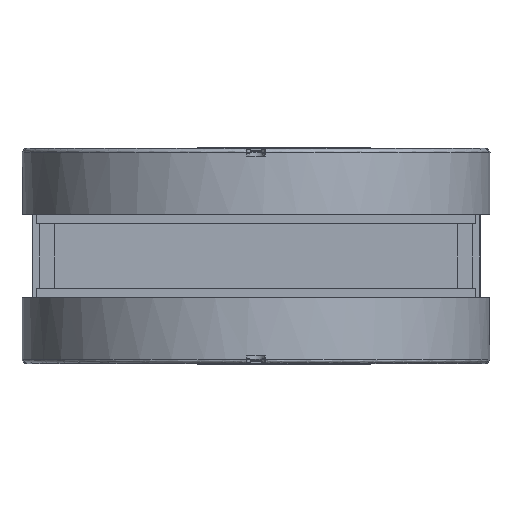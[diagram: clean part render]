
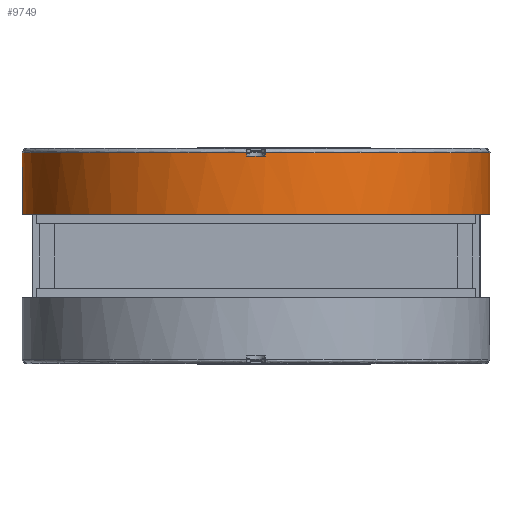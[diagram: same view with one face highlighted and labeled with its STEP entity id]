
A CAD part, front view. The second image highlights one B-rep face of the part: STEP entity #9749.
In plain terms, the highlighted free-form (B-spline) face has degree [2, 1] with [7, 2] control points.
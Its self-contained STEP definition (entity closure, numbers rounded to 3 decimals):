
#5945=CARTESIAN_POINT('V126',(75.741,19.9,
   3.));
#5946=VERTEX_POINT('V126',#5945);
#5958=CARTESIAN_POINT('V127',(-75.741,19.9,
   3.));
#5959=VERTEX_POINT('V127',#5958);
#5960=CARTESIAN_POINT('E205',(75.741,19.9,
   3.));
#5961=CARTESIAN_POINT('E205',(72.857,19.9,
   75.8));
#5962=CARTESIAN_POINT('E205',(0.,19.9,
   75.8));
#5963=CARTESIAN_POINT('E205',(-72.857,19.9,
   75.8));
#5964=CARTESIAN_POINT('E205',(-75.741,19.9,
   3.));
#5972=(BOUNDED_CURVE()B_SPLINE_CURVE(2,(#5960,#5961,#5962,#5963,
   #5964),.CIRCULAR_ARC.,.F.,.U.)B_SPLINE_CURVE_WITH_KNOTS((3,2,3),
   (2.0,50.285,98.57),.UNSPECIFIED.)CURVE(
   )GEOMETRIC_REPRESENTATION_ITEM()RATIONAL_B_SPLINE_CURVE((1.0,
   0.721,1.0,0.721,1.0))REPRESENTATION_ITEM(
   'E205'));
#5973=EDGE_CURVE('E205',#5946,#5959,#5972,.T.);
#6037=CARTESIAN_POINT('V122',(-75.741,19.9,
   -3.));
#6038=VERTEX_POINT('V122',#6037);
#6050=CARTESIAN_POINT('V123',(75.741,19.9,
   -3.));
#6051=VERTEX_POINT('V123',#6050);
#6052=CARTESIAN_POINT('E195',(-75.741,19.9,
   -3.));
#6053=CARTESIAN_POINT('E195',(-72.857,19.9,
   -75.8));
#6054=CARTESIAN_POINT('E195',(0.,19.9,
   -75.8));
#6055=CARTESIAN_POINT('E195',(72.857,19.9,
   -75.8));
#6056=CARTESIAN_POINT('E195',(75.741,19.9,
   -3.));
#6064=(BOUNDED_CURVE()B_SPLINE_CURVE(2,(#6052,#6053,#6054,#6055,
   #6056),.CIRCULAR_ARC.,.F.,.U.)B_SPLINE_CURVE_WITH_KNOTS((3,2,3),
   (2.0,50.285,98.57),.UNSPECIFIED.)CURVE(
   )GEOMETRIC_REPRESENTATION_ITEM()RATIONAL_B_SPLINE_CURVE((1.0,
   0.721,1.0,0.721,1.0))REPRESENTATION_ITEM(
   'E195'));
#6065=EDGE_CURVE('E195',#6038,#6051,#6064,.T.);
#9260=CARTESIAN_POINT('V9',(-75.741,18.9,
   -3.));
#9261=VERTEX_POINT('V9',#9260);
#9267=CARTESIAN_POINT('E10',(-75.741,18.9,
   -3.));
#9268=CARTESIAN_POINT('E10',(-75.741,19.9,
   -3.));
#9269=B_SPLINE_CURVE_WITH_KNOTS('E10',1,(#9267,#9268),
   .POLYLINE_FORM.,.F.,.U.,(2,2),(0.0,0.4),
   .UNSPECIFIED.);
#9270=EDGE_CURVE('E10',#9261,#6038,#9269,.T.);
#9544=CARTESIAN_POINT('V8',(-75.8,0.,0.0)
   );
#9545=VERTEX_POINT('V8',#9544);
#9546=CARTESIAN_POINT('E8',(-75.8,0.,0.0)
   );
#9547=CARTESIAN_POINT('E8',(-75.8,0.,
   -131.289));
#9548=CARTESIAN_POINT('E8',(37.9,0.,
   -65.645));
#9549=CARTESIAN_POINT('E8',(151.6,0.,
   0.));
#9550=CARTESIAN_POINT('E8',(37.9,0.,
   65.645));
#9551=CARTESIAN_POINT('E8',(-75.8,0.,
   131.289));
#9552=CARTESIAN_POINT('E8',(-75.8,0.,0.0)
   );
#9560=(BOUNDED_CURVE()B_SPLINE_CURVE(2,(#9546,#9547,#9548,#9549,
   #9550,#9551,#9552),.CIRCULAR_ARC.,.T.,.U.)
   B_SPLINE_CURVE_WITH_KNOTS((3,2,2,3),(0.0,0.333,
   0.667,1.0),.UNSPECIFIED.)CURVE()
   GEOMETRIC_REPRESENTATION_ITEM()RATIONAL_B_SPLINE_CURVE((1.0,
   0.5,1.0,0.5,1.0,0.5,1.0)
   )REPRESENTATION_ITEM('E8'));
#9561=EDGE_CURVE('E8',#9545,#9545,#9560,.T.);
#9589=CARTESIAN_POINT('V3',(75.741,18.9,
   3.));
#9590=VERTEX_POINT('V3',#9589);
#9596=CARTESIAN_POINT('E3',(75.741,18.9,
   3.));
#9597=CARTESIAN_POINT('E3',(75.741,19.9,
   3.));
#9598=B_SPLINE_CURVE_WITH_KNOTS('E3',1,(#9596,#9597),.POLYLINE_FORM.,
   .F.,.U.,(2,2),(0.0,0.4),.UNSPECIFIED.);
#9599=EDGE_CURVE('E3',#9590,#5946,#9598,.T.);
#9609=CARTESIAN_POINT('V2',(75.741,18.9,
   -3.));
#9610=VERTEX_POINT('V2',#9609);
#9611=CARTESIAN_POINT('E2',(75.741,18.9,
   -3.));
#9612=CARTESIAN_POINT('E2',(75.859,18.9,
   0.));
#9613=CARTESIAN_POINT('E2',(75.741,18.9,
   3.));
#9621=(BOUNDED_CURVE()B_SPLINE_CURVE(2,(#9611,#9612,#9613),
   .CIRCULAR_ARC.,.F.,.U.)CURVE()GEOMETRIC_REPRESENTATION_ITEM()
   QUASI_UNIFORM_CURVE()RATIONAL_B_SPLINE_CURVE((1.0,
   0.999,1.0))REPRESENTATION_ITEM('E2'));
#9622=EDGE_CURVE('E2',#9610,#9590,#9621,.T.);
#9656=CARTESIAN_POINT('E1',(75.741,19.9,
   -3.));
#9657=CARTESIAN_POINT('E1',(75.741,18.9,
   -3.));
#9658=B_SPLINE_CURVE_WITH_KNOTS('E1',1,(#9656,#9657),.POLYLINE_FORM.,
   .F.,.U.,(2,2),(0.6,1.0),.UNSPECIFIED.);
#9659=EDGE_CURVE('E1',#6051,#9610,#9658,.T.);
#9677=CARTESIAN_POINT('F1',(-75.8,21.4,
   0.0));
#9678=CARTESIAN_POINT('F1',(-75.8,21.4,
   -131.289));
#9679=CARTESIAN_POINT('F1',(37.9,21.4,
   -65.645));
#9680=CARTESIAN_POINT('F1',(151.6,21.4,
   0.));
#9681=CARTESIAN_POINT('F1',(37.9,21.4,
   65.645));
#9682=CARTESIAN_POINT('F1',(-75.8,21.4,
   131.289));
#9683=CARTESIAN_POINT('F1',(-75.8,21.4,
   0.0));
#9684=CARTESIAN_POINT('F1',(-75.8,0.,0.0)
   );
#9685=CARTESIAN_POINT('F1',(-75.8,0.,
   -131.289));
#9686=CARTESIAN_POINT('F1',(37.9,0.,
   -65.645));
#9687=CARTESIAN_POINT('F1',(151.6,0.,
   0.));
#9688=CARTESIAN_POINT('F1',(37.9,0.,
   65.645));
#9689=CARTESIAN_POINT('F1',(-75.8,0.,
   131.289));
#9690=CARTESIAN_POINT('F1',(-75.8,0.,0.0)
   );
#9698=(BOUNDED_SURFACE()B_SPLINE_SURFACE(2,1,((#9677,#9684),(
   #9678,#9685),(#9679,#9686),(#9680,#9687),(#9681,#9688),(
   #9682,#9689),(#9683,#9690)),.CYLINDRICAL_SURF.,.T.,.F.,.U.)
   B_SPLINE_SURFACE_WITH_KNOTS((3,2,2,3),(2,2),(0.0,
   12.27,24.54,36.81),(0.0,
   1.0),.UNSPECIFIED.)GEOMETRIC_REPRESENTATION_ITEM()
   RATIONAL_B_SPLINE_SURFACE(((1.0,1.0),(0.5,
   0.5),(1.0,1.0),(0.5,
   0.5),(1.0,1.0),(0.5,
   0.5),(1.0,1.0)))REPRESENTATION_ITEM('F1')SURFACE()
   );
#9699=ORIENTED_EDGE('E205',*,*,#5973,.F.);
#9700=ORIENTED_EDGE('F7',*,*,#9599,.F.);
#9701=ORIENTED_EDGE('E2',*,*,#9622,.F.);
#9702=ORIENTED_EDGE('E1',*,*,#9659,.F.);
#9703=ORIENTED_EDGE('E195',*,*,#6065,.F.);
#9704=ORIENTED_EDGE('F3',*,*,#9270,.F.);
#9705=CARTESIAN_POINT('V7',(-75.8,18.9,
   0.));
#9706=VERTEX_POINT('V7',#9705);
#9707=CARTESIAN_POINT('E9',(-75.8,18.9,
   0.));
#9708=CARTESIAN_POINT('E9',(-75.8,18.9,
   -1.501));
#9709=CARTESIAN_POINT('E9',(-75.741,18.9,
   -3.));
#9717=(BOUNDED_CURVE()B_SPLINE_CURVE(2,(#9707,#9708,#9709),
   .CIRCULAR_ARC.,.F.,.U.)B_SPLINE_CURVE_WITH_KNOTS((3,3),(
   0.5,1.0),.UNSPECIFIED.)CURVE()
   GEOMETRIC_REPRESENTATION_ITEM()RATIONAL_B_SPLINE_CURVE((
   1.,1.,1.0))REPRESENTATION_ITEM('E9')
   );
#9718=EDGE_CURVE('E9',#9706,#9261,#9717,.T.);
#9719=ORIENTED_EDGE('E9',*,*,#9718,.F.);
#9720=CARTESIAN_POINT('E7',(-75.8,0.,0.0)
   );
#9721=CARTESIAN_POINT('E7',(-75.8,18.9,
   0.0));
#9722=B_SPLINE_CURVE_WITH_KNOTS('E7',1,(#9720,#9721),.POLYLINE_FORM.,
   .F.,.U.,(2,2),(0.0,0.883),.UNSPECIFIED.);
#9723=EDGE_CURVE('E7',#9545,#9706,#9722,.T.);
#9724=ORIENTED_EDGE('E7',*,*,#9723,.F.);
#9725=ORIENTED_EDGE('F17',*,*,#9561,.T.);
#9726=ORIENTED_EDGE('E7',*,*,#9723,.T.);
#9727=CARTESIAN_POINT('V6',(-75.741,18.9,
   3.));
#9728=VERTEX_POINT('V6',#9727);
#9729=CARTESIAN_POINT('E6',(-75.741,18.9,
   3.));
#9730=CARTESIAN_POINT('E6',(-75.8,18.9,
   1.501));
#9731=CARTESIAN_POINT('E6',(-75.8,18.9,
   0.));
#9739=(BOUNDED_CURVE()B_SPLINE_CURVE(2,(#9729,#9730,#9731),
   .CIRCULAR_ARC.,.F.,.U.)B_SPLINE_CURVE_WITH_KNOTS((3,3),(0.0,
   0.5),.UNSPECIFIED.)CURVE()
   GEOMETRIC_REPRESENTATION_ITEM()RATIONAL_B_SPLINE_CURVE((1.0,
   1.,1.))REPRESENTATION_ITEM('E6'));
#9740=EDGE_CURVE('E6',#9728,#9706,#9739,.T.);
#9741=ORIENTED_EDGE('E6',*,*,#9740,.F.);
#9742=CARTESIAN_POINT('E5',(-75.741,19.9,
   3.));
#9743=CARTESIAN_POINT('E5',(-75.741,18.9,
   3.));
#9744=B_SPLINE_CURVE_WITH_KNOTS('E5',1,(#9742,#9743),.POLYLINE_FORM.,
   .F.,.U.,(2,2),(0.6,1.0),.UNSPECIFIED.);
#9745=EDGE_CURVE('E5',#5959,#9728,#9744,.T.);
#9746=ORIENTED_EDGE('E5',*,*,#9745,.F.);
#9747=EDGE_LOOP('F1',(#9699,#9700,#9701,#9702,#9703,#9704,#9719,
   #9724,#9725,#9726,#9741,#9746));
#9748=FACE_OUTER_BOUND('F1',#9747,.F.);
#9749=ADVANCED_FACE('F1',(#9748),#9698,.T.);
